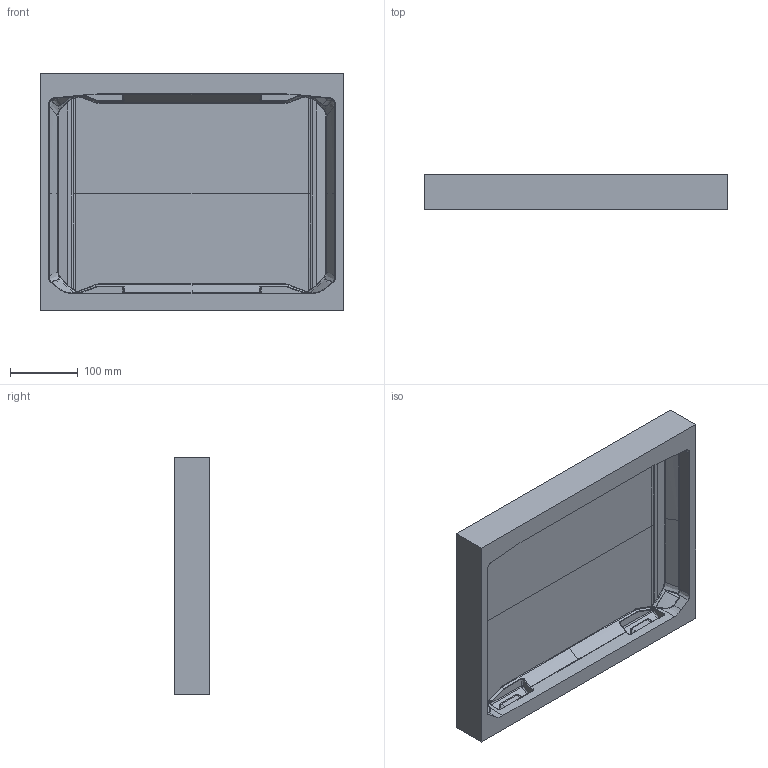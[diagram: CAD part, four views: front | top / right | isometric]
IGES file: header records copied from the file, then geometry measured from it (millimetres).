
Start section: SolidWorks IGES file using analytic representation for surfaces
Global section: file name: C:\Users\chad.chaiyont\My Project\Vault Case\Vault TOR\Vault CAD\PP PID cad\V300 PP TOP TUB 10-2-2023.IGS; native system: SolidWorks 2021; preprocessor: SolidWorks 2021; author: Chad.Chaiyont; date: 231003.162940; units: millimetre
Bounding box: 447.58 x 52.48 x 350.46 mm (x, y, z)
Surface area: 450092.1 mm2 (no closed solid volume)
Topology: 0 solids, 0 shells, 493 faces, 2656 edges, 2640 vertices
Faces by surface type: bspline 493
